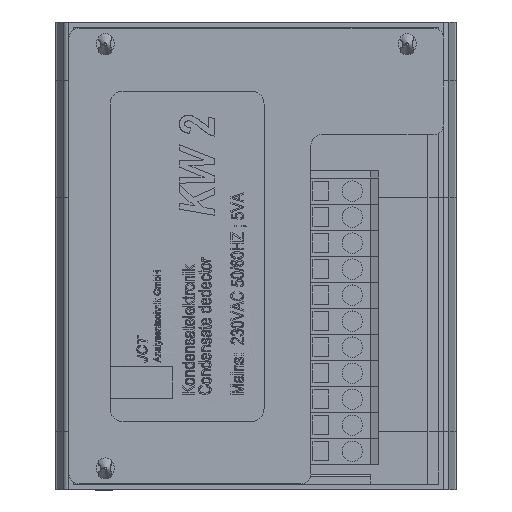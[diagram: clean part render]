
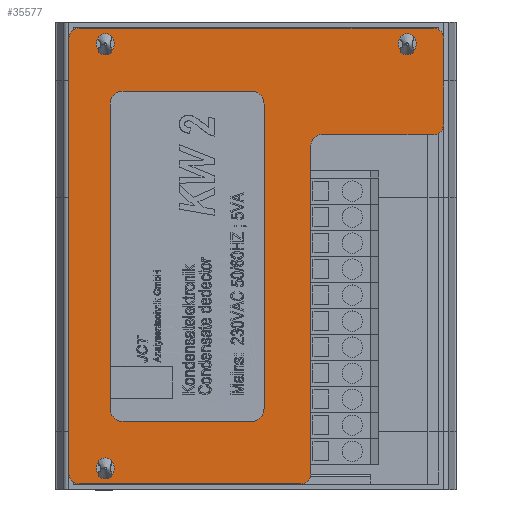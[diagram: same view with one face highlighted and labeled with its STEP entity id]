
A CAD part, top view. The second image highlights one B-rep face of the part: STEP entity #35577.
In plain terms, the highlighted planar face has unit normal (0, 0, 1).
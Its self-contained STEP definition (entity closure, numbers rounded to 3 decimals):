
#1145=PLANE('',#37285);
#3368=LINE('',#56687,#6800);
#3369=LINE('',#56688,#6801);
#3370=LINE('',#56689,#6802);
#3371=LINE('',#56690,#6803);
#3372=LINE('',#56691,#6804);
#3373=LINE('',#56692,#6805);
#6800=VECTOR('',#41488,1000.);
#6801=VECTOR('',#41489,1000.);
#6802=VECTOR('',#41490,1000.);
#6803=VECTOR('',#41491,1000.);
#6804=VECTOR('',#41492,1000.);
#6805=VECTOR('',#41493,1000.);
#12389=ORIENTED_EDGE('',*,*,#19256,.F.);
#12390=ORIENTED_EDGE('',*,*,#19224,.F.);
#12391=ORIENTED_EDGE('',*,*,#19257,.F.);
#12392=ORIENTED_EDGE('',*,*,#19228,.F.);
#12393=ORIENTED_EDGE('',*,*,#19258,.F.);
#12394=ORIENTED_EDGE('',*,*,#19236,.F.);
#12395=ORIENTED_EDGE('',*,*,#19259,.F.);
#12396=ORIENTED_EDGE('',*,*,#19232,.F.);
#12397=ORIENTED_EDGE('',*,*,#19260,.F.);
#12398=ORIENTED_EDGE('',*,*,#19220,.T.);
#12399=ORIENTED_EDGE('',*,*,#19261,.F.);
#12400=ORIENTED_EDGE('',*,*,#19240,.F.);
#12401=ORIENTED_EDGE('',*,*,#19249,.F.);
#12402=ORIENTED_EDGE('',*,*,#19247,.F.);
#12403=ORIENTED_EDGE('',*,*,#19245,.F.);
#19220=EDGE_CURVE('',#22981,#22982,#24741,.T.);
#19224=EDGE_CURVE('',#22985,#22986,#24743,.T.);
#19228=EDGE_CURVE('',#22989,#22990,#24745,.T.);
#19232=EDGE_CURVE('',#22993,#22994,#24747,.T.);
#19236=EDGE_CURVE('',#22997,#22998,#24749,.T.);
#19240=EDGE_CURVE('',#23001,#23002,#24751,.T.);
#19245=EDGE_CURVE('',#23006,#23006,#24754,.T.);
#19247=EDGE_CURVE('',#23008,#23008,#24756,.T.);
#19249=EDGE_CURVE('',#23010,#23010,#24758,.T.);
#19256=EDGE_CURVE('',#22986,#23001,#3368,.T.);
#19257=EDGE_CURVE('',#22990,#22985,#3369,.T.);
#19258=EDGE_CURVE('',#22998,#22989,#3370,.T.);
#19259=EDGE_CURVE('',#22994,#22997,#3371,.T.);
#19260=EDGE_CURVE('',#22981,#22993,#3372,.T.);
#19261=EDGE_CURVE('',#23002,#22982,#3373,.T.);
#22981=VERTEX_POINT('',#56612);
#22982=VERTEX_POINT('',#56613);
#22985=VERTEX_POINT('',#56621);
#22986=VERTEX_POINT('',#56622);
#22989=VERTEX_POINT('',#56630);
#22990=VERTEX_POINT('',#56631);
#22993=VERTEX_POINT('',#56639);
#22994=VERTEX_POINT('',#56640);
#22997=VERTEX_POINT('',#56648);
#22998=VERTEX_POINT('',#56649);
#23001=VERTEX_POINT('',#56657);
#23002=VERTEX_POINT('',#56658);
#23006=VERTEX_POINT('',#56668);
#23008=VERTEX_POINT('',#56673);
#23010=VERTEX_POINT('',#56678);
#24741=CIRCLE('',#37258,2.);
#24743=CIRCLE('',#37261,2.);
#24745=CIRCLE('',#37264,2.);
#24747=CIRCLE('',#37267,2.);
#24749=CIRCLE('',#37270,2.);
#24751=CIRCLE('',#37273,2.);
#24754=CIRCLE('',#37277,1.75);
#24756=CIRCLE('',#37280,1.75);
#24758=CIRCLE('',#37283,1.75);
#26092=EDGE_LOOP('',(#12389,#12390,#12391,#12392,#12393,#12394,#12395,#12396,
#12397,#12398,#12399,#12400));
#26093=EDGE_LOOP('',(#12401));
#26094=EDGE_LOOP('',(#12402));
#26095=EDGE_LOOP('',(#12403));
#28189=FACE_BOUND('',#26092,.T.);
#28190=FACE_BOUND('',#26093,.T.);
#28191=FACE_BOUND('',#26094,.T.);
#28192=FACE_BOUND('',#26095,.T.);
#35577=ADVANCED_FACE('',(#28189,#28190,#28191,#28192),#1145,.F.);
#37258=AXIS2_PLACEMENT_3D('',#56611,#41414,#41415);
#37261=AXIS2_PLACEMENT_3D('',#56620,#41422,#41423);
#37264=AXIS2_PLACEMENT_3D('',#56629,#41430,#41431);
#37267=AXIS2_PLACEMENT_3D('',#56638,#41438,#41439);
#37270=AXIS2_PLACEMENT_3D('',#56647,#41446,#41447);
#37273=AXIS2_PLACEMENT_3D('',#56656,#41454,#41455);
#37277=AXIS2_PLACEMENT_3D('',#56667,#41464,#41465);
#37280=AXIS2_PLACEMENT_3D('',#56672,#41470,#41471);
#37283=AXIS2_PLACEMENT_3D('',#56677,#41476,#41477);
#37285=AXIS2_PLACEMENT_3D('',#56686,#41486,#41487);
#41414=DIRECTION('',(0.,0.,-1.));
#41415=DIRECTION('',(0.,-1.,0.));
#41422=DIRECTION('',(0.,0.,-1.));
#41423=DIRECTION('',(0.,-1.,0.));
#41430=DIRECTION('',(0.,0.,-1.));
#41431=DIRECTION('',(0.,-1.,0.));
#41438=DIRECTION('',(0.,0.,-1.));
#41439=DIRECTION('',(0.,-1.,0.));
#41446=DIRECTION('',(0.,0.,-1.));
#41447=DIRECTION('',(0.,-1.,0.));
#41454=DIRECTION('',(0.,0.,-1.));
#41455=DIRECTION('',(0.,-1.,0.));
#41464=DIRECTION('',(0.,0.,1.));
#41465=DIRECTION('',(0.,1.,0.));
#41470=DIRECTION('',(0.,0.,1.));
#41471=DIRECTION('',(0.,1.,0.));
#41476=DIRECTION('',(0.,0.,1.));
#41477=DIRECTION('',(0.,1.,0.));
#41486=DIRECTION('',(0.,0.,-1.));
#41487=DIRECTION('',(0.,-1.,0.));
#41488=DIRECTION('',(0.,-1.,0.));
#41489=DIRECTION('',(1.,0.,0.));
#41490=DIRECTION('',(0.,1.,0.));
#41491=DIRECTION('',(-1.,0.,0.));
#41492=DIRECTION('',(0.,-1.,0.));
#41493=DIRECTION('',(-1.,0.,0.));
#56611=CARTESIAN_POINT('',(12.55,-12.5,23.15));
#56612=CARTESIAN_POINT('',(10.55,-12.5,23.15));
#56613=CARTESIAN_POINT('',(12.55,-10.5,23.15));
#56620=CARTESIAN_POINT('',(34.05,8.,23.15));
#56621=CARTESIAN_POINT('',(34.05,10.,23.15));
#56622=CARTESIAN_POINT('',(36.05,8.,23.15));
#56629=CARTESIAN_POINT('',(-33.95,8.,23.15));
#56630=CARTESIAN_POINT('',(-35.95,8.,23.15));
#56631=CARTESIAN_POINT('',(-33.95,10.,23.15));
#56638=CARTESIAN_POINT('',(8.55,-75.6,23.15));
#56639=CARTESIAN_POINT('',(10.55,-75.6,23.15));
#56640=CARTESIAN_POINT('',(8.55,-77.6,23.15));
#56647=CARTESIAN_POINT('',(-33.95,-75.6,23.15));
#56648=CARTESIAN_POINT('',(-33.95,-77.6,23.15));
#56649=CARTESIAN_POINT('',(-35.95,-75.6,23.15));
#56656=CARTESIAN_POINT('',(34.05,-8.5,23.15));
#56657=CARTESIAN_POINT('',(36.05,-8.5,23.15));
#56658=CARTESIAN_POINT('',(34.05,-10.5,23.15));
#56667=CARTESIAN_POINT('',(-28.95,7.,23.15));
#56668=CARTESIAN_POINT('',(-28.95,8.75,23.15));
#56672=CARTESIAN_POINT('',(-28.95,-74.6,23.15));
#56673=CARTESIAN_POINT('',(-28.95,-72.85,23.15));
#56677=CARTESIAN_POINT('',(29.05,7.,23.15));
#56678=CARTESIAN_POINT('',(29.05,8.75,23.15));
#56686=CARTESIAN_POINT('',(10.55,-77.6,23.15));
#56687=CARTESIAN_POINT('',(36.05,10.,23.15));
#56688=CARTESIAN_POINT('',(-35.95,10.,23.15));
#56689=CARTESIAN_POINT('',(-35.95,-77.6,23.15));
#56690=CARTESIAN_POINT('',(10.55,-77.6,23.15));
#56691=CARTESIAN_POINT('',(10.55,-10.5,23.15));
#56692=CARTESIAN_POINT('',(36.05,-10.5,23.15));
